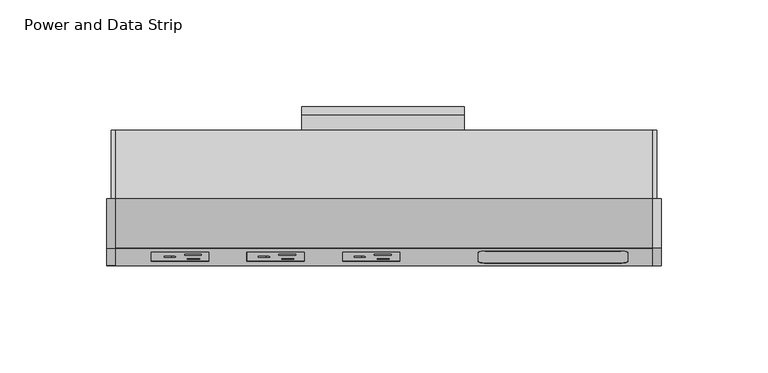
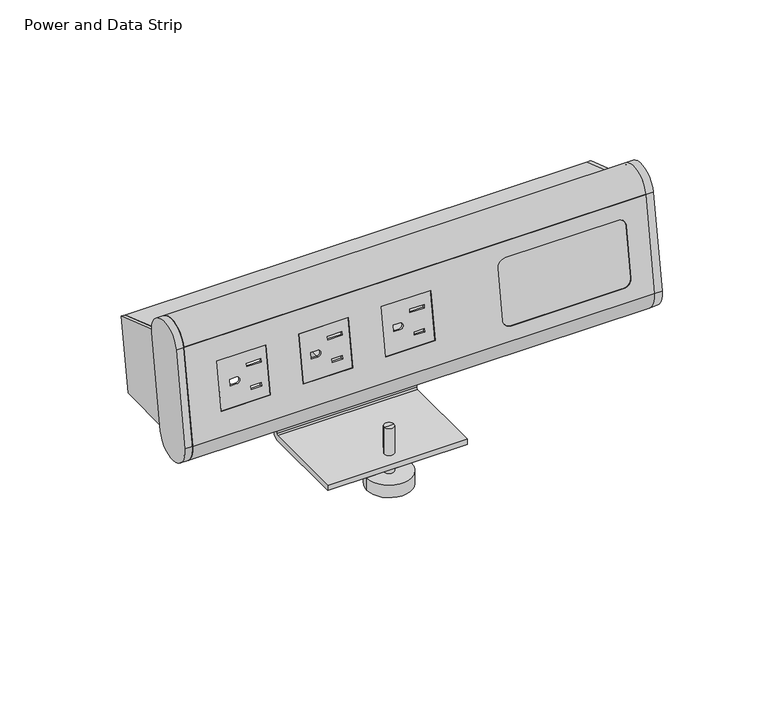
"""IFC4 building model written with IfcOpenShell, lengths in millimetres: furniture geometry, Steelcase - Answer Solution - Power Strips : Power and Data Strip."""

from ifc_helpers import new_model, si_unit, point, frame, frame_2d, origin, place, context, project, spatial, polyline, circle_curve, trimmed, segment, composite_curve, outline, extrude, source, transform, mapped, element, save
from ifc_brep_helpers import plane_surface, cylinder_surface, revolved_surface, advanced_brep


def power_and_data_strip_18ff1617(model_context):
    return source(origin(), model_context, "Body", "SolidModel", [
        advanced_brep(
        [(289.7065457, -215.880885, 748.6830076), (289.7065457, -219.6985309, 744.8653618), (289.7065457, -219.6985309, 727.8787184), (289.7065457, -215.7499706, 723.930158), (289.7065457, -173.6607362, 723.930158), (289.7065457, -173.1369834, 723.4064052), (289.7065457, -173.1369834, 681.7785039), (289.7065457, -173.9781992, 680.9372881), (289.7065457, -221.2187869, 680.9372881), (289.7065457, -221.2187869, 677.8451803), (289.7065457, -174.3028926, 677.8451803), (289.7065457, -170.1001048, 682.0479681), (289.7065457, -170.1001048, 723.0360838), (289.7065457, -173.9990829, 726.9350618), (289.7065457, -216.1406258, 726.9350618), (289.7065457, -216.7687678, 727.5632039), (289.7065457, -216.7687678, 744.5650357), (289.7065457, -215.5988718, 745.7349318), (289.7065457, -189.628128, 745.7349318), (289.7065457, -189.628128, 748.6830076), (213.508502, -215.880885, 748.6830076), (213.508502, -189.628128, 748.6830076), (213.508502, -189.628128, 745.7349318), (213.508502, -215.5988718, 745.7349318), (213.508502, -216.7687678, 744.5650357), (213.508502, -216.7687678, 727.5632039), (213.508502, -216.1406258, 726.9350618), (213.508502, -173.9990829, 726.9350618), (213.508502, -170.1001048, 723.0360838), (213.508502, -170.1001048, 682.0479681), (213.508502, -174.3028926, 677.8451803), (213.508502, -221.2187869, 677.8451803), (213.508502, -221.2187869, 680.9372881), (213.508502, -173.9781992, 680.9372881), (213.508502, -173.1369834, 681.7785039), (213.508502, -173.1369834, 723.4064052), (213.508502, -173.6607362, 723.930158), (213.508502, -215.7499706, 723.930158), (213.508502, -219.6985309, 727.8787184), (213.508502, -219.6985309, 744.8653618), (254.7664488, -212.3055516, 680.9372881), (249.4491771, -212.3055516, 680.9372881), (249.4491771, -212.3055516, 677.8451803), (254.7664488, -212.3055516, 677.8451803), (249.4491771, -212.3055516, 670.6209846), (254.7664488, -212.3055516, 670.6209846), (254.7664488, -212.3055516, 696.3235582), (249.4491771, -212.3055516, 696.3235582), (239.9084804, -212.3055516, 670.6209846), (264.3071455, -212.3055516, 670.6209846), (239.9084804, -212.3055516, 663.3728079), (264.3071455, -212.3055516, 663.3728079), (252.107813, -212.3055516, 663.3728079), (252.107813, -212.3055516, 696.3235582)],
        [
            (0, 1, circle_curve(frame((289.7065457, -215.880885, 744.8653618), z_axis=(1.0, 0.0, 0.0), x_axis=(0.0, 0.15643533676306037, 0.987688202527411)), 3.8176458)),
            (1, 2),
            (2, 3, circle_curve(frame((289.7065457, -215.7499706, 727.8787184), z_axis=(1.0, 0.0, 0.0), x_axis=(0.0, 0.15643533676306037, 0.987688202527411)), 3.9485603)),
            (3, 4),
            (4, 5, circle_curve(frame((289.7065457, -173.6607362, 723.4064052), z_axis=(-1.0, 0.0, 0.0), x_axis=(0.0, 0.15643533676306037, 0.987688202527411)), 0.5237528)),
            (5, 6),
            (6, 7, circle_curve(frame((289.7065457, -173.9781992, 681.7785039), z_axis=(-1.0, 0.0, 0.0), x_axis=(0.0, 0.15643533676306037, 0.987688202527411)), 0.8412158)),
            (7, 8),
            (8, 9),
            (9, 10),
            (10, 11, circle_curve(frame((289.7065457, -174.3028926, 682.0479681), z_axis=(1.0, 0.0, 0.0), x_axis=(0.0, 0.15643533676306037, 0.987688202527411)), 4.2027877)),
            (11, 12),
            (12, 13, circle_curve(frame((289.7065457, -173.9990829, 723.0360838), z_axis=(1.0, 0.0, 0.0), x_axis=(0.0, 0.15643533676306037, 0.987688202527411)), 3.898978)),
            (13, 14),
            (14, 15, circle_curve(frame((289.7065457, -216.1406258, 727.5632039), z_axis=(-1.0, 0.0, 0.0), x_axis=(0.0, 0.15643533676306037, 0.987688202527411)), 0.628142)),
            (15, 16),
            (16, 17, circle_curve(frame((289.7065457, -215.5988718, 744.5650357), z_axis=(-1.0, 0.0, 0.0), x_axis=(0.0, 0.15643533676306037, 0.987688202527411)), 1.1698961)),
            (17, 18),
            (18, 19),
            (19, 0),
            (20, 21),
            (21, 22),
            (22, 23),
            (23, 24, circle_curve(frame((213.508502, -215.5988718, 744.5650357), z_axis=(1.0, 0.0, 0.0), x_axis=(0.0, 0.15643533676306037, 0.987688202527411)), 1.1698961)),
            (24, 25),
            (25, 26, circle_curve(frame((213.508502, -216.1406258, 727.5632039), z_axis=(1.0, 0.0, 0.0), x_axis=(0.0, 0.15643533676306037, 0.987688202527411)), 0.628142)),
            (26, 27),
            (27, 28, circle_curve(frame((213.508502, -173.9990829, 723.0360838), z_axis=(-1.0, 0.0, 0.0), x_axis=(0.0, 0.15643533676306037, 0.987688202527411)), 3.898978)),
            (28, 29),
            (29, 30, circle_curve(frame((213.508502, -174.3028926, 682.0479681), z_axis=(-1.0, 0.0, 0.0), x_axis=(0.0, 0.15643533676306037, 0.987688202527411)), 4.2027877)),
            (30, 31),
            (31, 32),
            (32, 33),
            (33, 34, circle_curve(frame((213.508502, -173.9781992, 681.7785039), z_axis=(1.0, 0.0, 0.0), x_axis=(0.0, 0.15643533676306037, 0.987688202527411)), 0.8412158)),
            (34, 35),
            (35, 36, circle_curve(frame((213.508502, -173.6607362, 723.4064052), z_axis=(1.0, 0.0, 0.0), x_axis=(0.0, 0.15643533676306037, 0.987688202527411)), 0.5237528)),
            (36, 37),
            (37, 38, circle_curve(frame((213.508502, -215.7499706, 727.8787184), z_axis=(-1.0, 0.0, 0.0), x_axis=(0.0, 0.15643533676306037, 0.987688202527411)), 3.9485603)),
            (38, 39),
            (39, 20, circle_curve(frame((213.508502, -215.880885, 744.8653618), z_axis=(-1.0, 0.0, 0.0), x_axis=(0.0, 0.15643533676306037, 0.987688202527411)), 3.8176458)),
            (0, 20),
            (39, 1),
            (38, 2),
            (37, 3),
            (36, 4),
            (35, 5),
            (34, 6),
            (33, 7),
            (32, 8),
            (40, 41, circle_curve(frame((252.107813, -212.3055516, 680.9372881), z_axis=(0.0, 0.0, -1.0), x_axis=(1.0, 0.0, 0.0)), 2.6586358)),
            (41, 40, circle_curve(frame((252.107813, -212.3055516, 680.9372881), z_axis=(0.0, 0.0, -1.0), x_axis=(1.0, 0.0, 0.0)), 2.6586358)),
            (31, 9),
            (30, 10),
            (42, 43, circle_curve(frame((252.107813, -212.3055516, 677.8451803), z_axis=(0.0, 0.0, 1.0), x_axis=(1.0, 0.0, 0.0)), 2.6586358)),
            (43, 42, circle_curve(frame((252.107813, -212.3055516, 677.8451803), z_axis=(0.0, 0.0, 1.0), x_axis=(1.0, 0.0, 0.0)), 2.6586358)),
            (29, 11),
            (28, 12),
            (27, 13),
            (26, 14),
            (25, 15),
            (24, 16),
            (23, 17),
            (22, 18),
            (21, 19),
            (44, 45, circle_curve(frame((252.107813, -212.3055516, 670.6209846), z_axis=(0.0, 0.0, 1.0), x_axis=(1.0, 0.0, 0.0)), 2.6586358)),
            (45, 43),
            (42, 44),
            (46, 47, circle_curve(frame((252.107813, -212.3055516, 696.3235582), z_axis=(0.0, 0.0, -1.0), x_axis=(1.0, 0.0, 0.0)), 2.6586358)),
            (47, 41),
            (40, 46),
            (45, 44, circle_curve(frame((252.107813, -212.3055516, 670.6209846), z_axis=(0.0, 0.0, 1.0), x_axis=(1.0, 0.0, 0.0)), 2.6586358)),
            (47, 46, circle_curve(frame((252.107813, -212.3055516, 696.3235582), z_axis=(0.0, 0.0, -1.0), x_axis=(1.0, 0.0, 0.0)), 2.6586358)),
            (44, 48),
            (48, 49, circle_curve(frame((252.107813, -212.3055516, 670.6209846), z_axis=(0.0, 0.0, 1.0), x_axis=(1.0, 0.0, 0.0)), 12.1993326)),
            (49, 45),
            (49, 48, circle_curve(frame((252.107813, -212.3055516, 670.6209846), z_axis=(0.0, 0.0, 1.0), x_axis=(1.0, 0.0, 0.0)), 12.1993326)),
            (48, 50),
            (50, 51, circle_curve(frame((252.107813, -212.3055516, 663.3728079), z_axis=(0.0, 0.0, 1.0), x_axis=(1.0, 0.0, 0.0)), 12.1993326)),
            (51, 49),
            (51, 50, circle_curve(frame((252.107813, -212.3055516, 663.3728079), z_axis=(0.0, 0.0, 1.0), x_axis=(1.0, 0.0, 0.0)), 12.1993326)),
            (50, 52),
            (52, 51),
            (46, 53),
            (53, 47),
        ],
        [
            plane_surface(frame((289.7065457, -215.2836703, 748.6360055), z_axis=(1.0, 0.0, 0.0), x_axis=(0.0, -0.987688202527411, 0.1564353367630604))),
            plane_surface(frame((213.508502, -215.2836703, 748.6360055), z_axis=(-1.0, 0.0, 0.0), x_axis=(0.0, 0.987688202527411, -0.1564353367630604))),
            cylinder_surface(frame((213.508502, -215.880885, 744.8653618), z_axis=(1.0, 0.0, 0.0), x_axis=(0.0, 0.15643533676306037, 0.987688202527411)), 3.8176458),
            plane_surface(frame((289.7065457, -219.6985309, 744.8653618), z_axis=(0.0, -1.0, 0.0), x_axis=(-1.0, 0.0, 0.0))),
            cylinder_surface(frame((213.508502, -215.7499706, 727.8787184), z_axis=(1.0, 0.0, 0.0), x_axis=(0.0, 0.15643533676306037, 0.987688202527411)), 3.9485603),
            plane_surface(frame((289.7065457, -215.7499706, 723.930158), z_axis=(0.0, 0.0, -1.0), x_axis=(-1.0, 0.0, 0.0))),
            revolved_surface(polyline([(213.508502, -173.57880275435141, 723.9237096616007), (289.7065457, -173.57880275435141, 723.9237096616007)]), (213.508502, -173.6607362, 723.4064052), (-1.0, 0.0, 0.0)),
            plane_surface(frame((289.7065457, -173.1369834, 723.4064052), z_axis=(0.0, -1.0, 0.0), x_axis=(-1.0, 0.0, 0.0))),
            revolved_surface(polyline([(213.508502, -173.8466033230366, 682.6093628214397), (289.7065457, -173.8466033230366, 682.6093628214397)]), (213.508502, -173.9781992, 681.7785039), (-1.0, 0.0, 0.0)),
            plane_surface(frame((289.7065457, -173.9781992, 680.9372881), z_axis=(0.0, 0.0, 1.0), x_axis=(-1.0, 0.0, 0.0))),
            plane_surface(frame((289.7065457, -221.2187869, 680.9372881), z_axis=(0.0, -1.0, 0.0), x_axis=(-1.0, 0.0, 0.0))),
            plane_surface(frame((289.7065457, -221.2187869, 677.8451803), z_axis=(0.0, 0.0, -1.0), x_axis=(-1.0, 0.0, 0.0))),
            cylinder_surface(frame((213.508502, -174.3028926, 682.0479681), z_axis=(1.0, 0.0, 0.0), x_axis=(0.0, 0.15643533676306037, 0.987688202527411)), 4.2027877),
            plane_surface(frame((289.7065457, -170.1001048, 682.0479681), z_axis=(0.0, 1.0, 0.0), x_axis=(-1.0, 0.0, 0.0))),
            cylinder_surface(frame((213.508502, -173.9990829, 723.0360838), z_axis=(1.0, 0.0, 0.0), x_axis=(0.0, 0.15643533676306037, 0.987688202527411)), 3.898978),
            plane_surface(frame((289.7065457, -173.9990829, 726.9350618), z_axis=(0.0, 0.0, 1.0), x_axis=(-1.0, 0.0, 0.0))),
            revolved_surface(polyline([(213.508502, -216.042362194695, 728.1836123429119), (289.7065457, -216.042362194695, 728.1836123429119)]), (213.508502, -216.1406258, 727.5632039), (-1.0, 0.0, 0.0)),
            plane_surface(frame((289.7065457, -216.7687678, 727.5632039), z_axis=(0.0, 1.0, 0.0), x_axis=(-1.0, 0.0, 0.0))),
            revolved_surface(polyline([(213.508502, -215.41585870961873, 745.7205282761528), (289.7065457, -215.41585870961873, 745.7205282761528)]), (213.508502, -215.5988718, 744.5650357), (-1.0, 0.0, 0.0)),
            plane_surface(frame((289.7065457, -215.5988718, 745.7349318), z_axis=(0.0, 0.0, -1.0), x_axis=(-1.0, 0.0, 0.0))),
            plane_surface(frame((289.7065457, -189.628128, 745.7349318), z_axis=(0.0, 1.0, 0.0), x_axis=(-1.0, 0.0, 0.0))),
            plane_surface(frame((289.7065457, -189.628128, 748.6830076), z_axis=(0.0, 0.0, 1.0), x_axis=(-1.0, 0.0, 0.0))),
            cylinder_surface(frame((252.107813, -212.3055516, 696.3235582), z_axis=(0.0, 0.0, -1.0), x_axis=(1.0, 0.0, 0.0)), 2.6586358),
            plane_surface(frame((252.107813, -212.3055516, 670.6209846), z_axis=(0.0, 0.0, 1.0), x_axis=(1.0, 0.0, 0.0))),
            cylinder_surface(frame((252.107813, -212.3055516, 696.3235582), z_axis=(0.0, 0.0, -1.0), x_axis=(1.0, 0.0, 0.0)), 12.1993326),
            plane_surface(frame((252.107813, -212.3055516, 663.3728079), z_axis=(0.0, 0.0, -1.0), x_axis=(1.0, 0.0, 0.0))),
            plane_surface(frame((252.107813, -212.3055516, 696.3235582), z_axis=(0.0, 0.0, 1.0), x_axis=(1.0, 0.0, 0.0))),
        ],
        [
            (0, [[1, 2, 3, 4, 5, 6, 7, 8, 9, 10, 11, 12, 13, 14, 15, 16, 17, 18, 19, 20]]),
            (1, [[21, 22, 23, 24, 25, 26, 27, 28, 29, 30, 31, 32, 33, 34, 35, 36, 37, 38, 39, 40]]),
            (2, [[-1, 41, -40, 42]]),
            (3, [[-2, -42, -39, 43]]),
            (4, [[-3, -43, -38, 44]]),
            (5, [[-4, -44, -37, 45]]),
            (6, [[-5, -45, -36, 46]]),
            (7, [[-6, -46, -35, 47]]),
            (8, [[-7, -47, -34, 48]]),
            (9, [[-8, -48, -33, 49], [50, 51]]),
            (10, [[-9, -49, -32, 52]]),
            (11, [[-10, -52, -31, 53], [54, 55]]),
            (12, [[-11, -53, -30, 56]]),
            (13, [[-12, -56, -29, 57]]),
            (14, [[-13, -57, -28, 58]]),
            (15, [[-14, -58, -27, 59]]),
            (16, [[-15, -59, -26, 60]]),
            (17, [[-16, -60, -25, 61]]),
            (18, [[-17, -61, -24, 62]]),
            (19, [[-18, -62, -23, 63]]),
            (20, [[-19, -63, -22, 64]]),
            (21, [[-20, -64, -21, -41]]),
            (22, [[65, 66, -54, 67]]),
            (22, [[68, 69, -50, 70]]),
            (22, [[71, -67, -55, -66]]),
            (22, [[72, -70, -51, -69]]),
            (23, [[-65, 73, 74, 75]]),
            (23, [[-71, -75, 76, -73]]),
            (24, [[-74, 77, 78, 79]]),
            (24, [[-76, -79, 80, -77]]),
            (25, [[-78, 81, 82]]),
            (25, [[-80, -82, -81]]),
            (26, [[-68, 83, 84]]),
            (26, [[-72, -84, -83]]),
        ],
    ),
        extrude(outline(polyline([(0.0, -52.7672689), (0.0, 0.0), (251.8813106, 0.0), (251.8813106, -52.7672689), (0.0, -52.7672689)]), holes=[polyline([(43.6098042, -39.4865844), (43.6098042, -12.65222), (16.715273, -12.65222), (16.715273, -39.4865844), (43.6098042, -39.4865844)]), polyline([(88.5407526, -39.4865844), (88.5407526, -12.65222), (61.6462214, -12.65222), (61.6462214, -39.4865844), (88.5407526, -39.4865844)]), polyline([(133.4426148, -39.4865844), (133.4426148, -12.65222), (106.5480836, -12.65222), (106.5480836, -39.4865844), (133.4426148, -39.4865844)]), composite_curve([segment(polyline([(174.5753906, -44.8974633), (235.8886093, -44.8974633)]), True, "CONTINUOUS"), segment(trimmed(circle_curve(frame_2d((235.8886093, -40.5794633)), 4.318), [point((235.8886093, -44.8974633))], [point((240.2066093, -40.5794633))], True, "CARTESIAN"), True, "CONTINUOUS"), segment(polyline([(240.2066093, -40.5794633), (240.2066093, -12.9196581)]), True, "CONTINUOUS"), segment(trimmed(circle_curve(frame_2d((235.8886093, -12.9196581)), 4.318), [point((240.2066093, -12.9196581))], [point((235.8886093, -8.6016582))], True, "CARTESIAN"), True, "CONTINUOUS"), segment(polyline([(235.8886093, -8.6016582), (174.5753906, -8.6016582)]), True, "CONTINUOUS"), segment(trimmed(circle_curve(frame_2d((174.5753906, -12.9196581)), 4.318), [point((174.5753906, -8.6016582))], [point((170.2573906, -12.9196581))], True, "CARTESIAN"), True, "CONTINUOUS"), segment(polyline([(170.2573906, -12.9196581), (170.2573906, -40.5794633)]), True, "CONTINUOUS"), segment(trimmed(circle_curve(frame_2d((174.5753906, -40.5794633)), 4.318), [point((170.2573906, -40.5794633))], [point((174.5753906, -44.8974633))], True, "CARTESIAN"), True, "CONTINUOUS")], self_intersect=False)]), frame((126.1671577, -235.5311128, 800.1059923), z_axis=(0.0, -0.987688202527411, 0.15643533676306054), x_axis=(1.0, 0.0, 0.0)), (0.0, 0.0, 1.0), 1.0163295),
        extrude(outline(polyline([(26.8945312, 0.0), (26.8945312, -26.8945312), (0.0, -26.8945312), (0.0, 0.0), (26.8945312, 0.0)]), holes=[polyline([(8.21299, -16.9600514), (6.3808586, -16.9600514), (6.3808586, -22.6600154), (8.21299, -22.6600154), (8.21299, -16.9600514)]), polyline([(20.6533876, -15.6933927), (18.8212563, -15.6933927), (18.8212563, -23.5421527), (20.6533876, -23.5421527), (20.6533876, -15.6933927)]), composite_curve([segment(polyline([(15.2218888, -6.1165703), (11.7611964, -6.1165703), (11.7611964, -9.7355951)]), True, "CONTINUOUS"), segment(trimmed(circle_curve(frame_2d((13.4915426, -9.7355951)), 1.7303462), [point((11.7611964, -9.7355951))], [point((15.2218888, -9.7355951))], True, "CARTESIAN"), True, "CONTINUOUS"), segment(polyline([(15.2218888, -9.7355951), (15.2218888, -6.1165703)]), True, "CONTINUOUS")], self_intersect=False)]), frame((142.8824307, -241.7137207, 761.0707654), z_axis=(0.0, -0.9876882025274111, 0.1564353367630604), x_axis=(0.0, 0.1564353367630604, 0.9876882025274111)), (0.0, 0.0, 1.0), 1.0160019),
        extrude(outline(polyline([(26.8945312, -45.0265152), (26.8945312, -71.8608797), (0.0, -71.8608797), (0.0, -45.0265152), (26.8945312, -45.0265152)]), holes=[polyline([(8.21299, -61.1419826), (6.3808586, -61.1419826), (6.3808586, -66.8419466), (8.21299, -66.8419466), (8.21299, -61.1419826)]), polyline([(20.6533876, -59.875324), (18.8212563, -59.875324), (18.8212563, -67.7240839), (20.6533876, -67.7240839), (20.6533876, -59.875324)]), composite_curve([segment(polyline([(15.2218888, -50.2985016), (11.7611964, -50.2985016), (11.7611964, -53.9175264)]), True, "CONTINUOUS"), segment(trimmed(circle_curve(frame_2d((13.4915426, -53.9175264)), 1.7303462), [point((11.7611964, -53.9175264))], [point((15.2218888, -53.9175264))], True, "CARTESIAN"), True, "CONTINUOUS"), segment(polyline([(15.2218888, -53.9175264), (15.2218888, -50.2985016)]), True, "CONTINUOUS")], self_intersect=False)]), frame((142.8824307, -241.7137207, 761.0707654), z_axis=(0.0, -0.9876882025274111, 0.1564353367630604), x_axis=(0.0, 0.1564353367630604, 0.9876882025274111)), (0.0, 0.0, 1.0), 1.0160019),
        extrude(outline(polyline([(26.8945312, -89.8981949), (26.8945312, -116.7325594), (0.0, -116.7325594), (0.0, -89.8981949), (26.8945312, -89.8981949)]), holes=[polyline([(8.21299, -106.0136623), (6.3808586, -106.0136623), (6.3808586, -111.7136263), (8.21299, -111.7136263), (8.21299, -106.0136623)]), polyline([(20.6533876, -104.7470037), (18.8212563, -104.7470037), (18.8212563, -112.5957636), (20.6533876, -112.5957636), (20.6533876, -104.7470037)]), composite_curve([segment(polyline([(15.2218888, -95.1701813), (11.7611964, -95.1701813), (11.7611964, -98.7892061)]), True, "CONTINUOUS"), segment(trimmed(circle_curve(frame_2d((13.4915426, -98.7892061)), 1.7303462), [point((11.7611964, -98.7892061))], [point((15.2218888, -98.7892061))], True, "CARTESIAN"), True, "CONTINUOUS"), segment(polyline([(15.2218888, -98.7892061), (15.2218888, -95.1701813)]), True, "CONTINUOUS")], self_intersect=False)]), frame((142.8824307, -241.7137207, 761.0707654), z_axis=(0.0, -0.9876882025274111, 0.1564353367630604), x_axis=(0.0, 0.1564353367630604, 0.9876882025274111)), (0.0, 0.0, 1.0), 1.0160019),
        extrude(outline(composite_curve([segment(trimmed(circle_curve(frame_2d((61.3132187, -4.3179999)), 4.318), [point((61.3132187, 0.0))], [point((65.6312187, -4.3179999))], False, "CARTESIAN"), True, "CONTINUOUS"), segment(polyline([(65.6312187, -4.3179999), (65.6312187, -31.9778052)]), True, "CONTINUOUS"), segment(trimmed(circle_curve(frame_2d((61.3132187, -31.9778052)), 4.318), [point((65.6312187, -31.9778052))], [point((61.3132187, -36.2958051))], False, "CARTESIAN"), True, "CONTINUOUS"), segment(polyline([(61.3132187, -36.2958051), (0.0, -36.2958051)]), True, "CONTINUOUS"), segment(trimmed(circle_curve(frame_2d((0.0, -31.9778052)), 4.318), [point((0.0, -36.2958051))], [point((-4.318, -31.9778052))], False, "CARTESIAN"), True, "CONTINUOUS"), segment(polyline([(-4.318, -31.9778052), (-4.318, -4.3179999)]), True, "CONTINUOUS"), segment(trimmed(circle_curve(frame_2d((0.0, -4.3179999)), 4.318), [point((-4.318, -4.3179999))], [point((0.0, 0.0))], False, "CARTESIAN"), True, "CONTINUOUS"), segment(polyline([(0.0, 0.0), (61.3132187, 0.0)]), True, "CONTINUOUS")], self_intersect=False)), frame((300.7425483, -236.8767161, 791.610236), z_axis=(0.0, -0.987688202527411, 0.15643533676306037), x_axis=(1.0, 0.0, 0.0)), (0.0, 0.0, 1.0), 1.0160019),
        extrude(outline(composite_curve([segment(trimmed(circle_curve(frame_2d((-224.9867661, 798.1466452)), 11.7405151), [point((-236.5346041, 800.2649306))], [point((-213.3640115, 796.4879496))], False, "CARTESIAN"), True, "CONTINUOUS"), segment(polyline([(-213.3640115, 796.4879496), (-181.1103363, 785.5207429), (-187.5214632, 745.0427121), (-188.5523493, 745.028687), (-182.2477146, 784.8343563), (-214.5203431, 795.8080086)]), True, "CONTINUOUS"), segment(trimmed(circle_curve(frame_2d((-224.9869289, 798.1466701)), 10.7246798), [point((-214.5203431, 795.8080086))], [point((-235.5311128, 800.1059923))], True, "CARTESIAN"), True, "CONTINUOUS"), segment(polyline([(-235.5311128, 800.1059923), (-236.5346041, 800.2649306)]), True, "CONTINUOUS")], self_intersect=False)), frame((126.1671577, 0.0, 0.0), z_axis=(1.0, 0.0, 0.0), x_axis=(0.0, 1.0, 0.0)), (0.0, 0.0, 1.0), 251.8813106),
        extrude(outline(composite_curve([segment(trimmed(circle_curve(frame_2d((-233.1522021, 746.5934586)), 11.7406798), [point((-221.5854791, 744.5798845))], [point((-244.789595, 748.1473731))], False, "CARTESIAN"), True, "CONTINUOUS"), segment(polyline([(-244.789595, 748.1473731), (-243.7857783, 747.9883833)]), True, "CONTINUOUS"), segment(trimmed(circle_curve(frame_2d((-233.1522021, 746.5934586)), 10.7246798), [point((-243.7857783, 747.9883833))], [point((-222.5890985, 744.7388431))], True, "CARTESIAN"), True, "CONTINUOUS"), segment(polyline([(-222.5890985, 744.7388431), (-221.5854791, 744.5798845)]), True, "CONTINUOUS")], self_intersect=False)), frame((126.1671577, 0.0, 0.0), z_axis=(1.0, 0.0, 0.0), x_axis=(0.0, 1.0, 0.0)), (0.0, 0.0, 1.0), 251.8813106),
        advanced_brep(
        [(380.1150175, -221.5855761, 744.5792719), (380.1150175, -187.5214632, 745.0427121), (380.1150175, -181.1103363, 785.5207429), (380.1150175, -213.3640026, 796.4879474), (378.0484683, -213.3640026, 796.4879474), (378.0484683, -181.1103363, 785.5207429), (378.0484683, -187.5214632, 745.0427121), (378.0484683, -221.5855761, 744.5792719), (378.0484683, -244.7913391, 748.1342547), (378.0484683, -236.5325345, 800.2779975), (382.282813, -236.5325345, 800.2779975), (382.282813, -244.7913391, 748.1342547), (382.282813, -221.5854791, 744.5798845), (382.282813, -213.3640959, 796.4873584)],
        [
            (0, 1),
            (1, 2),
            (2, 3),
            (3, 0),
            (4, 5),
            (5, 6),
            (6, 7),
            (7, 8, circle_curve(frame((378.0484683, -233.1522021, 746.5934586), z_axis=(-1.0, 0.0, 0.0), x_axis=(0.0, -0.987688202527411, 0.15643533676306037)), 11.7406798)),
            (8, 9),
            (9, 4, circle_curve(frame((378.0484683, -224.9869289, 798.1466701), z_axis=(-1.0, 0.0, 0.0), x_axis=(0.0, -0.987688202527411, 0.15643533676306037)), 11.7406798)),
            (0, 7),
            (6, 1),
            (5, 2),
            (4, 3),
            (10, 11),
            (11, 12, circle_curve(frame((382.282813, -233.1522021, 746.5934586), z_axis=(1.0, 0.0, 0.0), x_axis=(0.0, -0.987688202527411, 0.15643533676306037)), 11.7406798)),
            (12, 13),
            (13, 10, circle_curve(frame((382.282813, -224.9869289, 798.1466701), z_axis=(1.0, 0.0, 0.0), x_axis=(0.0, -0.987688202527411, 0.15643533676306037)), 11.7406798)),
            (10, 9),
            (8, 11),
            (0, 12),
            (3, 13),
        ],
        [
            plane_surface(frame((380.1150175, -187.5214632, 745.0427121), z_axis=(1.0, 0.0, 0.0), x_axis=(0.0, 0.9999074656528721, 0.013603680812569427))),
            plane_surface(frame((378.0484683, -187.5214632, 745.0427121), z_axis=(-1.0, 0.0, 0.0), x_axis=(0.0, -0.9999074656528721, -0.013603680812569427))),
            plane_surface(frame((380.1150175, -221.5855761, 744.5792719), z_axis=(0.0, 0.013603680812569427, -0.9999074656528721), x_axis=(-1.0, 0.0, 0.0))),
            plane_surface(frame((380.1150175, -187.5214632, 745.0427121), z_axis=(0.0, 0.9876882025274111, -0.15643533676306), x_axis=(-1.0, 0.0, 0.0))),
            plane_surface(frame((380.1150175, -181.1103363, 785.5207429), z_axis=(0.0, 0.32192794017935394, 0.9467641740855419), x_axis=(-1.0, 0.0, 0.0))),
            plane_surface(frame((382.282813, -244.7913237, 748.1343522), z_axis=(1.0, 0.0, 0.0), x_axis=(0.0, -0.15643533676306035, -0.987688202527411))),
            plane_surface(frame((382.282813, -236.5325345, 800.2779975), z_axis=(0.0, -0.987688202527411, 0.15643533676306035), x_axis=(-1.0, 0.0, 0.0))),
            cylinder_surface(frame((378.0484683, -233.1522021, 746.5934586), z_axis=(1.0, 0.0, 0.0), x_axis=(0.0, -0.987688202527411, 0.15643533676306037)), 11.7406798),
            plane_surface(frame((382.282813, -221.5854791, 744.5798845), z_axis=(0.0, 0.987688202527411, -0.15643533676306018), x_axis=(-1.0, 0.0, 0.0))),
            cylinder_surface(frame((378.0484683, -224.9869289, 798.1466701), z_axis=(1.0, 0.0, 0.0), x_axis=(0.0, -0.987688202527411, 0.15643533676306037)), 11.7406798),
        ],
        [
            (0, [[1, 2, 3, 4]]),
            (1, [[5, 6, 7, 8, 9, 10]]),
            (2, [[-1, 11, -7, 12]]),
            (3, [[-2, -12, -6, 13]]),
            (4, [[-3, -13, -5, 14]]),
            (5, [[15, 16, 17, 18]]),
            (6, [[-15, 19, -9, 20]]),
            (7, [[-16, -20, -8, -11, 21]]),
            (8, [[-17, -21, -4, 22]]),
            (9, [[-18, -22, -14, -10, -19]]),
        ],
    ),
        advanced_brep(
        [(121.932813, -236.5325345, 800.2779975), (121.932813, -213.3640959, 796.4873584), (121.932813, -221.5854791, 744.5798845), (121.932813, -244.7913391, 748.1342547), (126.1671577, -236.5325345, 800.2779975), (126.1671577, -244.7913391, 748.1342547), (126.1671577, -221.5854791, 744.5798845), (126.1671577, -187.5214632, 745.0427121), (126.1671577, -181.1103363, 785.5207429), (126.1671577, -213.3640026, 796.4879474), (124.1006085, -213.3640114, 796.4879504), (124.1006085, -221.5854791, 744.5798845), (124.1006085, -181.1103363, 785.5207429), (124.1006085, -187.5214632, 745.0427121)],
        [
            (0, 1, circle_curve(frame((121.932813, -224.9869289, 798.1466701), z_axis=(-1.0, 0.0, 0.0), x_axis=(0.0, -0.987688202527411, 0.15643533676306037)), 11.7406798)),
            (1, 2),
            (2, 3, circle_curve(frame((121.932813, -233.1522021, 746.5934586), z_axis=(-1.0, 0.0, 0.0), x_axis=(0.0, -0.987688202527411, 0.15643533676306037)), 11.7406798)),
            (3, 0),
            (4, 5),
            (5, 6, circle_curve(frame((126.1671577, -233.1522021, 746.5934586), z_axis=(1.0, 0.0, 0.0), x_axis=(0.0, -0.987688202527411, 0.15643533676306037)), 11.7406798)),
            (6, 7),
            (7, 8),
            (8, 9),
            (9, 4, circle_curve(frame((126.1671577, -224.9869289, 798.1466701), z_axis=(1.0, 0.0, 0.0), x_axis=(0.0, -0.987688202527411, 0.15643533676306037)), 11.7406798)),
            (0, 4),
            (9, 10),
            (10, 1),
            (10, 11),
            (11, 2),
            (11, 6),
            (5, 3),
            (10, 12),
            (12, 13),
            (13, 11),
            (8, 12),
            (7, 13),
        ],
        [
            plane_surface(frame((121.932813, -236.5830599, 799.9833273), z_axis=(-1.0, 0.0, 0.0), x_axis=(0.0, 0.1564353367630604, 0.987688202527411))),
            plane_surface(frame((126.1671577, -236.5830599, 799.9833273), z_axis=(1.0, 0.0, 0.0), x_axis=(0.0, -0.1564353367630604, -0.987688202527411))),
            cylinder_surface(frame((126.1671577, -224.9869289, 798.1466701), z_axis=(-1.0, 0.0, 0.0), x_axis=(0.0, -0.987688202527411, 0.15643533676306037)), 11.7406798),
            plane_surface(frame((121.932813, -213.3640959, 796.4873584), z_axis=(0.0, 0.987688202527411, -0.1564353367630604), x_axis=(1.0, 0.0, 0.0))),
            cylinder_surface(frame((126.1671577, -233.1522021, 746.5934586), z_axis=(-1.0, 0.0, 0.0), x_axis=(0.0, -0.987688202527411, 0.15643533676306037)), 11.7406798),
            plane_surface(frame((121.932813, -244.7913391, 748.1342547), z_axis=(0.0, -0.9876882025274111, 0.15643533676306), x_axis=(1.0, 0.0, 0.0))),
            plane_surface(frame((124.1006085, -213.3640026, 796.4879474), z_axis=(-1.0, 0.0, 0.0), x_axis=(0.0, 0.15643533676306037, 0.987688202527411))),
            plane_surface(frame((124.1006085, -213.3640026, 796.4879474), z_axis=(0.0, 0.3219279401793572, 0.9467641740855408), x_axis=(1.0, 0.0, 0.0))),
            plane_surface(frame((124.1006085, -181.1103363, 785.5207429), z_axis=(0.0, 0.9876882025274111, -0.15643533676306), x_axis=(1.0, 0.0, 0.0))),
            plane_surface(frame((124.1006085, -187.5214632, 745.0427121), z_axis=(0.0, 0.013603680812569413, -0.9999074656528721), x_axis=(1.0, 0.0, 0.0))),
        ],
        [
            (0, [[1, 2, 3, 4]]),
            (1, [[5, 6, 7, 8, 9, 10]]),
            (2, [[-1, 11, -10, 12, 13]]),
            (3, [[-2, -13, 14, 15]]),
            (4, [[-3, -15, 16, -6, 17]]),
            (5, [[-4, -17, -5, -11]]),
            (6, [[18, 19, 20, -14]]),
            (7, [[-18, -12, -9, 21]]),
            (8, [[-19, -21, -8, 22]]),
            (9, [[-20, -22, -7, -16]]),
        ],
    ),
    ])


if __name__ == "__main__":
    model = new_model("IFC4")
    model_context = context("Model", 3, world=origin())
    ifc_project = project(units=[si_unit("LENGTHUNIT", "METRE", prefix="MILLI")], contexts=[model_context])
    site = spatial("IfcSite", under=ifc_project)
    building = spatial("IfcBuilding", under=site)
    placement = place(None, origin())
    power_and_data_strip_shape = power_and_data_strip_18ff1617(model_context)
    element("IfcFurniture", 1, ObjectType="Steelcase - Answer Solution - Power Strips : Power and Data Strip", at=placement, inside=building, context=model_context, shape_type="MappedRepresentation", body=[
        mapped(power_and_data_strip_shape, transform((0.0, 0.0, 0.0), x_axis=(1.0, 0.0, 0.0), y_axis=(0.0, 1.0, 0.0), z_axis=(0.0, 0.0, 1.0))),
    ])
    save(model, "model.ifc")
